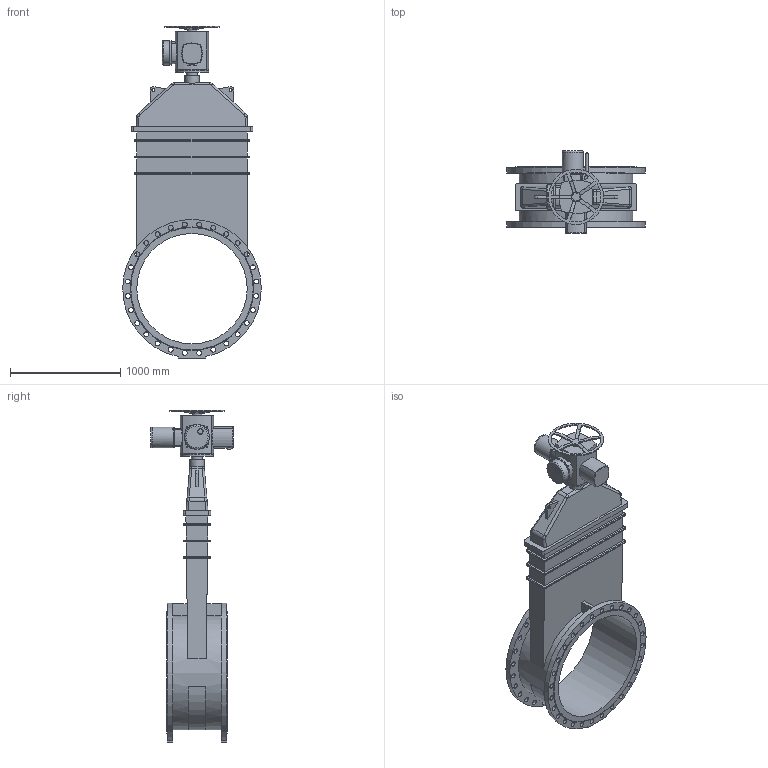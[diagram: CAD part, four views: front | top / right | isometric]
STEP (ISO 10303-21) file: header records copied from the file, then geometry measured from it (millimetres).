
FILE_DESCRIPTION(('STEP AP203'), '1');
FILE_NAME('青溻桄赅 47GVA DN1000 PN16+MT903.Z90', '', ('UNSPECIFIED'), ('UNSPECIFIED'), 'ASCON STEP Converter 1.6', 'ASCON Math Kernel', '');
FILE_SCHEMA(('CONFIG_CONTROL_DESIGN'));
Length unit declared in the file: millimetre
Bounding box: 1254.88 x 750 x 3006.5 mm (x, y, z)
Volume: 373928116.2 mm3; surface area: 10650335.3 mm2
Topology: 2 solids, 2 shells, 427 faces, 1049 edges, 666 vertices
Faces by surface type: cylinder 209, plane 154, bspline 34, torus 19, cone 11
Full cylindrical faces by diameter (mm): 12 x8, 13.835 x8, 18 x8, 20 x2, 25 x2, 29.22 x1, 30 x1, 44 x56, 45 x1, 50 x2, 60 x1, 90 x1, 100 x1, 130 x1, 190 x1, 200 x2, 220 x1, 300 x2, 500 x1, 1000 x1
Entity records: 19955 total; most frequent: CARTESIAN_POINT 6755, DIRECTION 1988, ORIENTED_EDGE 1822, EDGE_CURVE 911, AXIS2_PLACEMENT_3D 793, EDGE_LOOP 739, VERTEX_POINT 656, FACE_BOUND 493
